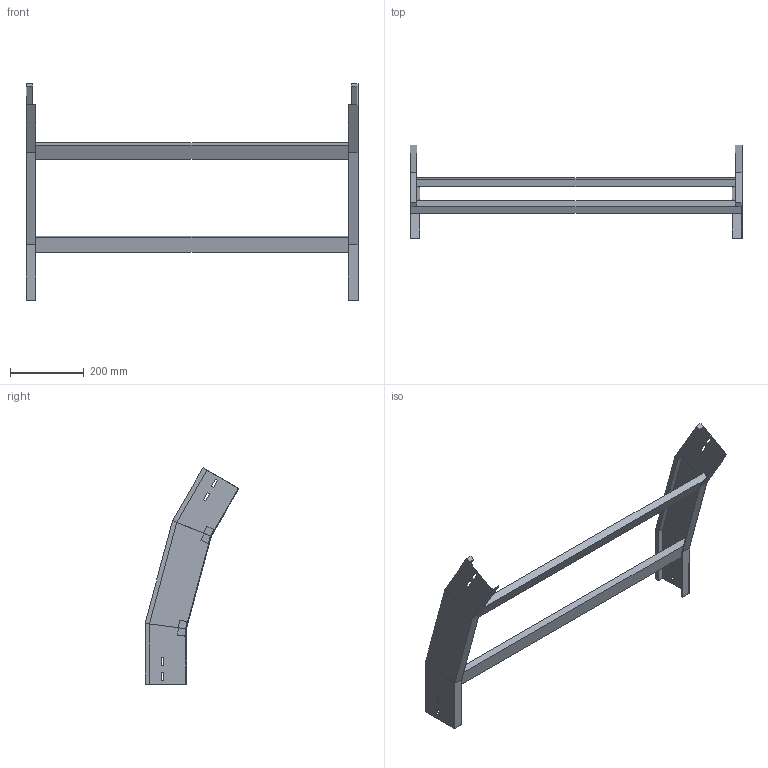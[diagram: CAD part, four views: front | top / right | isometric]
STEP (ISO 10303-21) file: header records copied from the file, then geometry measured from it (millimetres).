
FILE_DESCRIPTION (( 'STEP AP214' ), '1' );
FILE_NAME ('35B5J900.step', '2025-02-21T14:47:42', ( '' ), ( '' ), 'SwSTEP 2.0', 'SolidWorks 2023', '' );
FILE_SCHEMA (( 'AUTOMOTIVE_DESIGN' ));
Length unit declared in the file: millimetre
Products named in the file (3): 35B5J900; TRAVERSINO_900; LONGH.DISCESA_30°_H112.5_R500
Assembly tree (5 placements, depth 2):
  35B5J900
    LONGH.DISCESA_30°_H112.5_R500  x2
    TRAVERSINO_900  x3
Bounding box: 900 x 254.53 x 586.33 mm (x, y, z)
Volume: 2731840.7 mm3; surface area: 695346.8 mm2
Topology: 5 solids, 5 shells, 102 faces, 244 edges, 152 vertices
Faces by surface type: plane 102
Entity records: 1480 total; most frequent: CARTESIAN_POINT 244, ORIENTED_EDGE 232, DIRECTION 228, VECTOR 116, EDGE_CURVE 116, LINE 116, VERTEX_POINT 72, EDGE_LOOP 56
